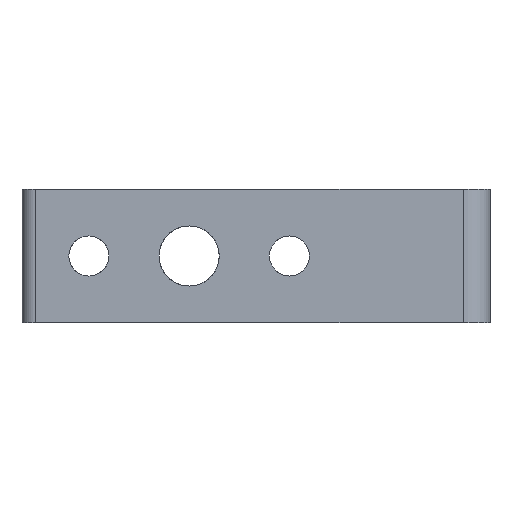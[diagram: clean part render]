
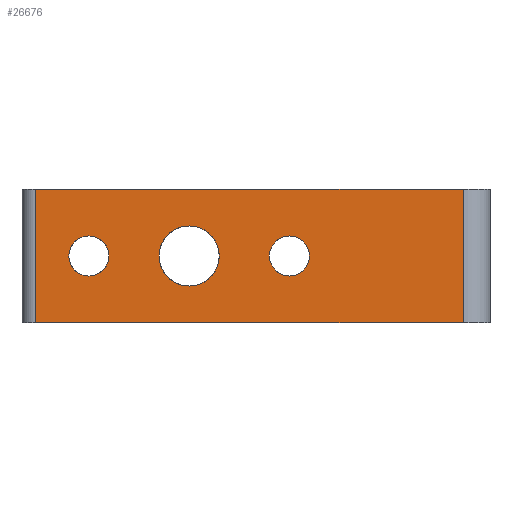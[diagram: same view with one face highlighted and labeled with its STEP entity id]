
A CAD part, left-side view. The second image highlights one B-rep face of the part: STEP entity #26676.
In plain terms, the highlighted planar face has unit normal (-1, 0, 0).
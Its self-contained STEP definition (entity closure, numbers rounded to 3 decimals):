
#641 = CARTESIAN_POINT ( 'NONE',  ( 0., 30., 0. ) ) ;
#836 = FACE_BOUND ( 'NONE', #11946, .T. ) ;
#922 = VERTEX_POINT ( 'NONE', #21710 ) ;
#1083 = ORIENTED_EDGE ( 'NONE', *, *, #24984, .F. ) ;
#2561 = EDGE_CURVE ( 'NONE', #15421, #29851, #22664, .T. ) ;
#2704 = DIRECTION ( 'NONE',  ( -1., 0., 0. ) ) ;
#3296 = DIRECTION ( 'NONE',  ( 0., 0., 1. ) ) ;
#3728 = DIRECTION ( 'NONE',  ( -1., 0., 0. ) ) ;
#3982 = DIRECTION ( 'NONE',  ( -1., 0., 0. ) ) ;
#4095 = EDGE_LOOP ( 'NONE', ( #1083, #32843, #19063, #24814 ) ) ;
#4738 = DIRECTION ( 'NONE',  ( -1., 0., 0. ) ) ;
#5410 = CIRCLE ( 'NONE', #27269, 3. ) ;
#5470 = AXIS2_PLACEMENT_3D ( 'NONE', #18635, #2704, #21281 ) ;
#6300 = AXIS2_PLACEMENT_3D ( 'NONE', #8042, #26548, #10705 ) ;
#6930 = DIRECTION ( 'NONE',  ( 0., 0., -1. ) ) ;
#7243 = EDGE_CURVE ( 'NONE', #21429, #10128, #17692, .T. ) ;
#7489 = CARTESIAN_POINT ( 'NONE',  ( 0., 45., 4.5 ) ) ;
#8042 = CARTESIAN_POINT ( 'NONE',  ( 0., 60., 0. ) ) ;
#8709 = CARTESIAN_POINT ( 'NONE',  ( 0., 70., 10. ) ) ;
#9287 = EDGE_LOOP ( 'NONE', ( #9519, #32359 ) ) ;
#9519 = ORIENTED_EDGE ( 'NONE', *, *, #15013, .F. ) ;
#9559 = VERTEX_POINT ( 'NONE', #14668 ) ;
#9721 = VERTEX_POINT ( 'NONE', #15585 ) ;
#9828 = AXIS2_PLACEMENT_3D ( 'NONE', #20200, #22851, #6930 ) ;
#10128 = VERTEX_POINT ( 'NONE', #17467 ) ;
#10607 = VECTOR ( 'NONE', #33225, 1000. ) ;
#10705 = DIRECTION ( 'NONE',  ( 0., 0., 1. ) ) ;
#11418 = CARTESIAN_POINT ( 'NONE',  ( 0., 70., -10. ) ) ;
#11442 = ORIENTED_EDGE ( 'NONE', *, *, #30305, .F. ) ;
#11946 = EDGE_LOOP ( 'NONE', ( #14013, #13588 ) ) ;
#12894 = VECTOR ( 'NONE', #29968, 1000. ) ;
#13588 = ORIENTED_EDGE ( 'NONE', *, *, #2561, .F. ) ;
#13802 = DIRECTION ( 'NONE',  ( 0., -1., 0. ) ) ;
#14013 = ORIENTED_EDGE ( 'NONE', *, *, #14262, .F. ) ;
#14052 = CARTESIAN_POINT ( 'NONE',  ( 0., 68., 10. ) ) ;
#14262 = EDGE_CURVE ( 'NONE', #29851, #15421, #18425, .T. ) ;
#14668 = CARTESIAN_POINT ( 'NONE',  ( 0., 60., -3. ) ) ;
#14879 = VERTEX_POINT ( 'NONE', #7489 ) ;
#15013 = EDGE_CURVE ( 'NONE', #14879, #28396, #22474, .T. ) ;
#15023 = LINE ( 'NONE', #23026, #22027 ) ;
#15421 = VERTEX_POINT ( 'NONE', #32461 ) ;
#15585 = CARTESIAN_POINT ( 'NONE',  ( 0., 4., 10. ) ) ;
#16818 = CARTESIAN_POINT ( 'NONE',  ( 0., 45., -4.5 ) ) ;
#17381 = CARTESIAN_POINT ( 'NONE',  ( 0., 68., 10. ) ) ;
#17467 = CARTESIAN_POINT ( 'NONE',  ( 0., 68., -10. ) ) ;
#17692 = LINE ( 'NONE', #17381, #10607 ) ;
#18425 = CIRCLE ( 'NONE', #31263, 3. ) ;
#18635 = CARTESIAN_POINT ( 'NONE',  ( 0., 45., 0. ) ) ;
#19063 = ORIENTED_EDGE ( 'NONE', *, *, #23486, .T. ) ;
#19159 = EDGE_CURVE ( 'NONE', #28396, #14879, #28811, .T. ) ;
#19223 = DIRECTION ( 'NONE',  ( -1., 0., 0. ) ) ;
#19657 = CARTESIAN_POINT ( 'NONE',  ( 0., 30., 0. ) ) ;
#19928 = CARTESIAN_POINT ( 'NONE',  ( 0., 45., 0. ) ) ;
#19993 = PLANE ( 'NONE',  #9828 ) ;
#20200 = CARTESIAN_POINT ( 'NONE',  ( 0., 70., 10. ) ) ;
#20663 = CARTESIAN_POINT ( 'NONE',  ( 0., 60., 0. ) ) ;
#20916 = AXIS2_PLACEMENT_3D ( 'NONE', #19657, #3728, #22298 ) ;
#21164 = FACE_OUTER_BOUND ( 'NONE', #4095, .T. ) ;
#21281 = DIRECTION ( 'NONE',  ( 0., 0., 1. ) ) ;
#21335 = ORIENTED_EDGE ( 'NONE', *, *, #26241, .F. ) ;
#21429 = VERTEX_POINT ( 'NONE', #14052 ) ;
#21710 = CARTESIAN_POINT ( 'NONE',  ( 0., 60., 3. ) ) ;
#22027 = VECTOR ( 'NONE', #33667, 1000. ) ;
#22298 = DIRECTION ( 'NONE',  ( 0., 0., 1. ) ) ;
#22474 = CIRCLE ( 'NONE', #5470, 4.5 ) ;
#22554 = DIRECTION ( 'NONE',  ( 0., 0., 1. ) ) ;
#22664 = CIRCLE ( 'NONE', #20916, 3. ) ;
#22851 = DIRECTION ( 'NONE',  ( 1., 0., 0. ) ) ;
#23026 = CARTESIAN_POINT ( 'NONE',  ( 0., 4., 10. ) ) ;
#23313 = DIRECTION ( 'NONE',  ( 0., 0., 1. ) ) ;
#23387 = CARTESIAN_POINT ( 'NONE',  ( 0., 30., 3. ) ) ;
#23486 = EDGE_CURVE ( 'NONE', #10128, #29190, #33184, .T. ) ;
#23902 = LINE ( 'NONE', #8709, #30162 ) ;
#24446 = FACE_BOUND ( 'NONE', #30047, .T. ) ;
#24814 = ORIENTED_EDGE ( 'NONE', *, *, #31500, .T. ) ;
#24920 = CARTESIAN_POINT ( 'NONE',  ( 0., 4., -10. ) ) ;
#24984 = EDGE_CURVE ( 'NONE', #21429, #9721, #23902, .T. ) ;
#26241 = EDGE_CURVE ( 'NONE', #9559, #922, #5410, .T. ) ;
#26548 = DIRECTION ( 'NONE',  ( -1., 0., 0. ) ) ;
#26676 = ADVANCED_FACE ( 'NONE', ( #24446, #21164, #836, #28190 ), #19993, .F. ) ;
#27269 = AXIS2_PLACEMENT_3D ( 'NONE', #20663, #4738, #23313 ) ;
#27539 = CIRCLE ( 'NONE', #6300, 3. ) ;
#28190 = FACE_BOUND ( 'NONE', #9287, .T. ) ;
#28396 = VERTEX_POINT ( 'NONE', #16818 ) ;
#28811 = CIRCLE ( 'NONE', #30766, 4.5 ) ;
#29190 = VERTEX_POINT ( 'NONE', #24920 ) ;
#29851 = VERTEX_POINT ( 'NONE', #23387 ) ;
#29968 = DIRECTION ( 'NONE',  ( 0., -1., 0. ) ) ;
#30047 = EDGE_LOOP ( 'NONE', ( #11442, #21335 ) ) ;
#30162 = VECTOR ( 'NONE', #13802, 1000. ) ;
#30305 = EDGE_CURVE ( 'NONE', #922, #9559, #27539, .T. ) ;
#30766 = AXIS2_PLACEMENT_3D ( 'NONE', #19928, #3982, #22554 ) ;
#31263 = AXIS2_PLACEMENT_3D ( 'NONE', #641, #19223, #3296 ) ;
#31500 = EDGE_CURVE ( 'NONE', #29190, #9721, #15023, .T. ) ;
#32359 = ORIENTED_EDGE ( 'NONE', *, *, #19159, .F. ) ;
#32461 = CARTESIAN_POINT ( 'NONE',  ( 0., 30., -3. ) ) ;
#32843 = ORIENTED_EDGE ( 'NONE', *, *, #7243, .T. ) ;
#33184 = LINE ( 'NONE', #11418, #12894 ) ;
#33225 = DIRECTION ( 'NONE',  ( 0., 0., -1. ) ) ;
#33667 = DIRECTION ( 'NONE',  ( 0., 0., 1. ) ) ;
